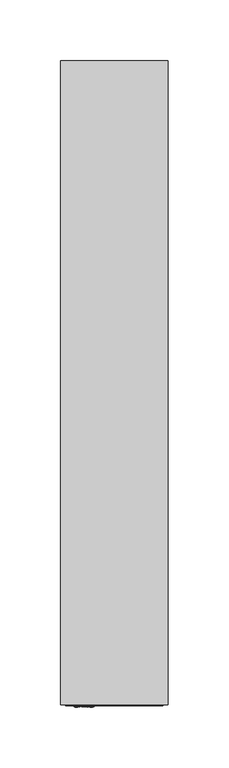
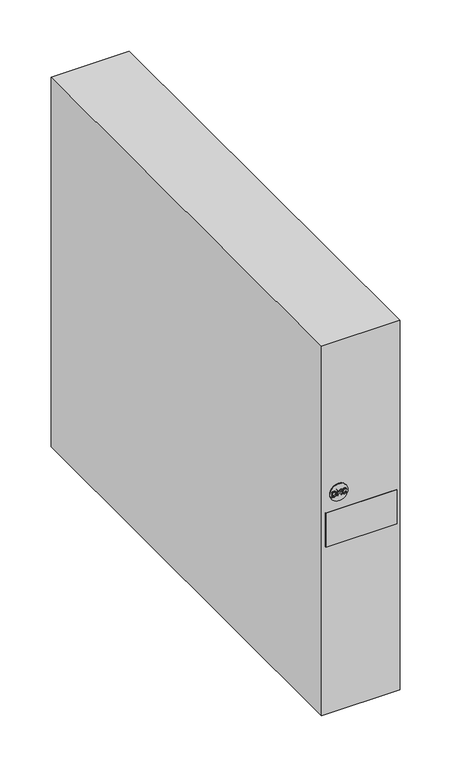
"""IFC4 building model written with IfcOpenShell, lengths in millimetres: proxy geometry, НВО_КНС_ОнлайнИБПSmallRackmount_DKC : 2000 ВА."""

from ifc_helpers import new_model, si_unit, point, frame, frame_2d, origin, origin_with_axes, place, context, project, spatial, polyline, circle_curve, trimmed, segment, composite_curve, outline, extrude, source, transform, mapped, element, save


def electrical_equipment_922366cf(model_context):
    return source(origin(), model_context, "Body", "SweptSolid", [
        extrude(outline(polyline([(257.0, -33.1463789), (257.0, -30.967046), (257.103007, -29.9980448), (257.9520786, -28.7273804), (258.829845, -28.3153525), (260.0460629, -28.154956), (261.4793312, -28.391872), (262.5094008, -29.1055631), (262.9405585, -29.9914229), (263.0273786, -31.0671099), (263.0273786, -33.1463789), (257.0, -33.1463789)]), holes=[polyline([(257.7534223, -32.3929566), (262.2739563, -32.3929566), (262.2739563, -31.0803536), (262.153291, -30.0120243), (261.4852173, -29.2299072), (260.0578351, -28.9083783), (258.9181367, -29.0724537), (257.8623154, -30.0900153), (257.7534223, -31.0597522), (257.7534223, -32.3929566)])]), frame((0.0, -2.0, 0.0), z_axis=(0.0, 1.0, 0.0), x_axis=(0.0, 0.0, 1.0)), (0.0, 0.0, 1.0), 6.0),
        extrude(outline(polyline([(257.0, -26.7422891), (259.0719114, -26.365578), (260.0401768, -25.3502237), (257.0, -23.0487539), (257.0, -22.1275774), (260.5493255, -24.816059), (263.0273786, -22.2217552), (263.0273786, -23.2753692), (260.076965, -26.365578), (263.0273786, -27.1190003), (257.0, -26.7422891)])), frame((0.0, -2.0, 0.0), z_axis=(0.0, 1.0, 0.0), x_axis=(0.0, 0.0, 1.0)), (0.0, 0.0, 1.0), 6.0),
        extrude(outline(polyline([(259.1425447, -17.3245101), (258.0330126, -17.963889), (257.6592445, -19.1168311), (257.9336845, -20.1564657), (258.7628905, -20.8642706), (260.0607782, -21.0916217), (261.180611, -20.8995873), (262.0458694, -20.2337209), (262.3681341, -19.055027), (262.0775073, -18.0367296), (261.3307068, -16.6652655), (262.652139, -17.5165445), (263.1215564, -19.0255964), (262.7588248, -20.4735799), (261.6971173, -21.4881985), (260.0593067, -21.845044), (258.4479835, -21.5294013), (257.3016632, -20.6096963), (256.9058222, -19.0417832), (257.4289504, -17.4643052), (259.1425447, -17.3245101)])), frame((0.0, -2.0, 0.0), z_axis=(0.0, 1.0, 0.0), x_axis=(0.0, 0.0, 1.0)), (0.0, 0.0, 1.0), 6.0),
        extrude(outline(composite_curve([segment(trimmed(circle_curve(frame_2d((260.0, -25.0)), 10.0), [point((260.0, -35.0))], [point((260.0, -15.0))], False, "CARTESIAN"), True, "CONTINUOUS"), segment(trimmed(circle_curve(frame_2d((260.0, -25.0)), 10.0), [point((260.0, -15.0))], [point((260.0, -35.0))], False, "CARTESIAN"), True, "CONTINUOUS")], self_intersect=False)), frame((0.0, -1.0, 0.0), z_axis=(0.0, 1.0, 0.0), x_axis=(0.0, 0.0, 1.0)), (0.0, 0.0, 1.0), 10.0),
        extrude(outline(polyline([(44.0, 0.0), (-44.0, 0.0), (-44.0, 528.0), (44.0, 528.0), (44.0, 0.0)])), origin_with_axes(), (0.0, 0.0, 1.0), 440.0),
        extrude(outline(polyline([(40.0, -1.0), (-40.0, -1.0), (-40.0, 0.0), (40.0, 0.0), (40.0, -1.0)])), frame((0.0, 0.0, 200.0), z_axis=(0.0, 0.0, 1.0), x_axis=(1.0, 0.0, 0.0)), (0.0, 0.0, 1.0), 40.0),
    ])


if __name__ == "__main__":
    model = new_model("IFC4")
    model_context = context("Model", 3, world=origin())
    ifc_project = project(units=[si_unit("LENGTHUNIT", "METRE", prefix="MILLI")], contexts=[model_context])
    site = spatial("IfcSite", under=ifc_project)
    building = spatial("IfcBuilding", under=site)
    placement = place(None, origin())
    electrical_equipment_shape = electrical_equipment_922366cf(model_context)
    element("IfcBuildingElementProxy", 1, Name="НВО_КНС_ОнлайнИБПSmallRackmount_DKC : 2000 ВА", ObjectType="НВО_КНС_ОнлайнИБПSmallRackmount_DKC : 2000 ВА", at=placement, inside=building, context=model_context, shape_type="MappedRepresentation", body=[
        mapped(electrical_equipment_shape, transform((0.0, 0.0, 0.0), x_axis=(1.0, 0.0, 0.0), y_axis=(0.0, 1.0, 0.0), z_axis=(0.0, 0.0, 1.0))),
    ])
    save(model, "model.ifc")
